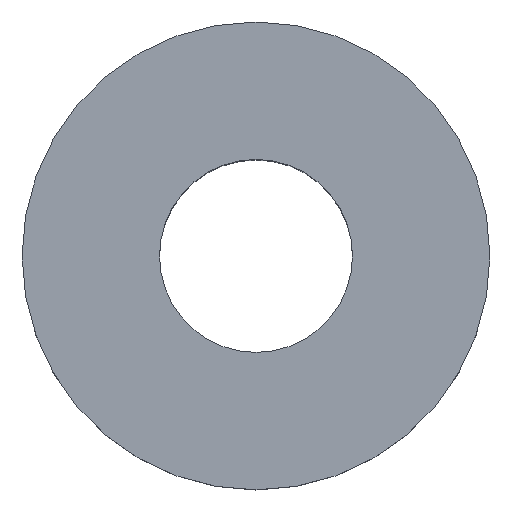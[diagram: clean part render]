
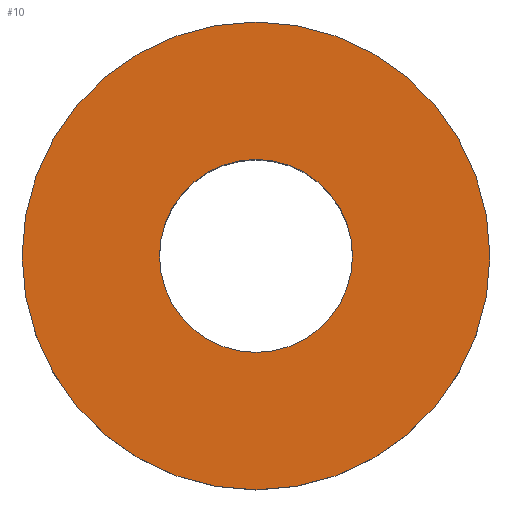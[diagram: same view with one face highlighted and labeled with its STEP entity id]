
A CAD part, top view. The second image highlights one B-rep face of the part: STEP entity #10.
In plain terms, the highlighted planar face has unit normal (0, 0, 1).
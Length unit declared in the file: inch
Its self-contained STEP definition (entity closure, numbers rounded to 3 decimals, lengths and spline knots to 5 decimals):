
#2 = EDGE_LOOP ( 'NONE', ( #178 ) ) ;
#10 = ADVANCED_FACE ( 'NONE', ( #70, #180 ), #83, .F. ) ;
#26 = DIRECTION ( 'NONE',  ( 0., 0., 1. ) ) ;
#29 = CIRCLE ( 'NONE', #164, 1.25 ) ;
#31 = ORIENTED_EDGE ( 'NONE', *, *, #115, .F. ) ;
#33 = CARTESIAN_POINT ( 'NONE',  ( 0.51575, 0., 0. ) ) ;
#34 = EDGE_CURVE ( 'NONE', #118, #118, #29, .T. ) ;
#48 = DIRECTION ( 'NONE',  ( 1., 0., 0. ) ) ;
#70 = FACE_BOUND ( 'NONE', #80, .T. ) ;
#80 = EDGE_LOOP ( 'NONE', ( #31 ) ) ;
#83 = PLANE ( 'NONE',  #224 ) ;
#95 = CIRCLE ( 'NONE', #216, 0.51575 ) ;
#112 = CARTESIAN_POINT ( 'NONE',  ( 0., 0., 0. ) ) ;
#115 = EDGE_CURVE ( 'NONE', #135, #135, #95, .T. ) ;
#118 = VERTEX_POINT ( 'NONE', #195 ) ;
#135 = VERTEX_POINT ( 'NONE', #33 ) ;
#138 = DIRECTION ( 'NONE',  ( -1., 0., 0. ) ) ;
#139 = DIRECTION ( 'NONE',  ( 0., 0., 1. ) ) ;
#164 = AXIS2_PLACEMENT_3D ( 'NONE', #204, #26, #188 ) ;
#178 = ORIENTED_EDGE ( 'NONE', *, *, #34, .T. ) ;
#180 = FACE_OUTER_BOUND ( 'NONE', #2, .T. ) ;
#184 = DIRECTION ( 'NONE',  ( 0., 0., -1. ) ) ;
#188 = DIRECTION ( 'NONE',  ( 1., 0., 0. ) ) ;
#195 = CARTESIAN_POINT ( 'NONE',  ( 1.25, 0., 0. ) ) ;
#204 = CARTESIAN_POINT ( 'NONE',  ( 0., 0., 0. ) ) ;
#216 = AXIS2_PLACEMENT_3D ( 'NONE', #112, #139, #48 ) ;
#224 = AXIS2_PLACEMENT_3D ( 'NONE', #229, #184, #138 ) ;
#229 = CARTESIAN_POINT ( 'NONE',  ( 0., 0.51575, 0. ) ) ;
